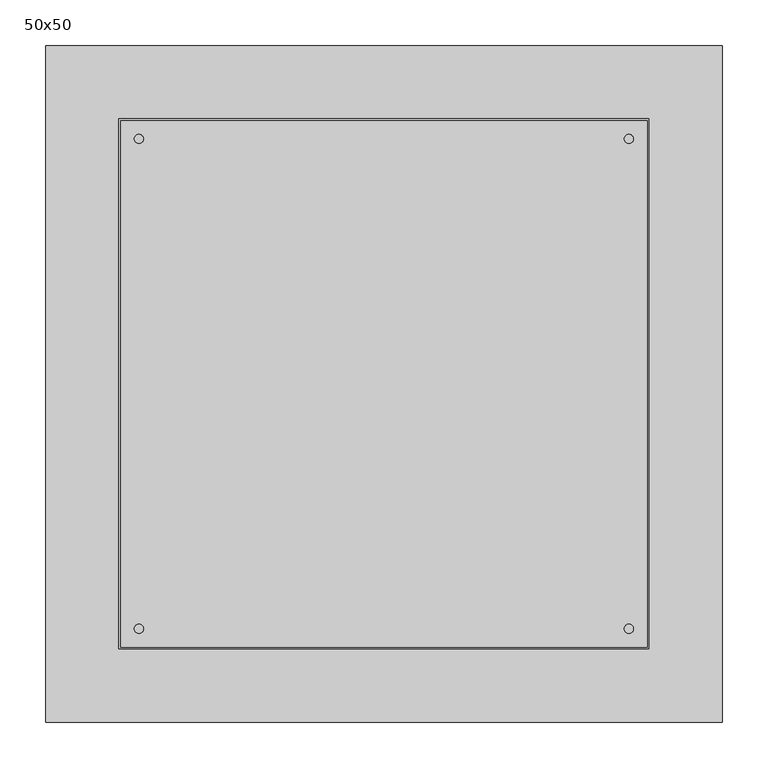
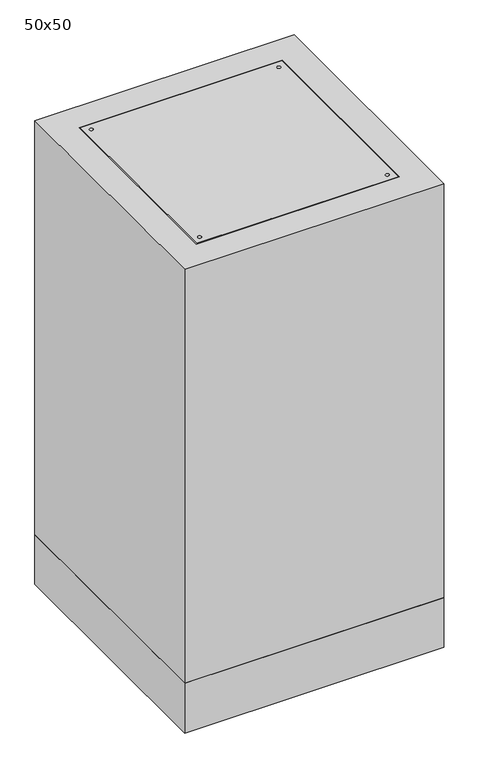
"""IFC4 building model written with IfcOpenShell, lengths in millimetres: proxy geometry, ARC_MDL_ME_Arqueta : 50x50."""

from ifc_helpers import new_model, si_unit, point, frame, frame_2d, origin, place, context, project, spatial, polyline, circle_curve, trimmed, segment, composite_curve, outline, extrude, faceted_brep, source, transform, mapped, element, save


def proxy_50x50_437b038c(model_context):
    return source(origin(), model_context, "Body", "SolidModel", [
        extrude(outline(polyline([(287.1537061, 285.2358215), (287.1537061, -290.7641785), (-288.8462939, -290.7641785), (-288.8462939, 285.2358215), (287.1537061, 285.2358215)]), holes=[composite_curve([segment(trimmed(circle_curve(frame_2d((-268.8462939, 265.2358215)), 5.0), [point((-273.8462939, 265.2358215))], [point((-263.8462939, 265.2358215))], True, "CARTESIAN"), True, "CONTINUOUS"), segment(trimmed(circle_curve(frame_2d((-268.8462939, 265.2358215)), 5.0), [point((-263.8462939, 265.2358215))], [point((-273.8462939, 265.2358215))], True, "CARTESIAN"), True, "CONTINUOUS")], self_intersect=False), composite_curve([segment(trimmed(circle_curve(frame_2d((267.1537061, 265.2358215)), 5.0), [point((262.1537061, 265.2358215))], [point((272.1537061, 265.2358215))], True, "CARTESIAN"), True, "CONTINUOUS"), segment(trimmed(circle_curve(frame_2d((267.1537061, 265.2358215)), 5.0), [point((272.1537061, 265.2358215))], [point((262.1537061, 265.2358215))], True, "CARTESIAN"), True, "CONTINUOUS")], self_intersect=False), composite_curve([segment(trimmed(circle_curve(frame_2d((267.1537061, -270.7641785)), 5.0), [point((262.1537061, -270.7641785))], [point((272.1537061, -270.7641785))], True, "CARTESIAN"), True, "CONTINUOUS"), segment(trimmed(circle_curve(frame_2d((267.1537061, -270.7641785)), 5.0), [point((272.1537061, -270.7641785))], [point((262.1537061, -270.7641785))], True, "CARTESIAN"), True, "CONTINUOUS")], self_intersect=False), composite_curve([segment(trimmed(circle_curve(frame_2d((-268.8462939, -270.7641785)), 5.0), [point((-273.8462939, -270.7641785))], [point((-263.8462939, -270.7641785))], True, "CARTESIAN"), True, "CONTINUOUS"), segment(trimmed(circle_curve(frame_2d((-268.8462939, -270.7641785)), 5.0), [point((-263.8462939, -270.7641785))], [point((-273.8462939, -270.7641785))], True, "CARTESIAN"), True, "CONTINUOUS")], self_intersect=False)]), frame((0.0, 0.0, -15.0), z_axis=(0.0, 0.0, 1.0), x_axis=(1.0, 0.0, 0.0)), (0.0, 0.0, 1.0), 15.0),
        extrude(outline(polyline([(369.1537061, 367.2358215), (369.1537061, -372.7641785), (-370.8462939, -372.7641785), (-370.8462939, 367.2358215), (369.1537061, 367.2358215)])), frame((0.0, 0.0, -1400.0), z_axis=(0.0, 0.0, 1.0), x_axis=(1.0, 0.0, 0.0)), (0.0, 0.0, 1.0), 150.0),
        faceted_brep([(369.1537061, -372.7641785, 0.0), (369.1537061, 367.2358215, 0.0), (-370.8462939, 367.2358215, 0.0), (-370.8462939, -372.7641785, 0.0), (-290.8462939, -292.7641785, 0.0), (-290.8462939, 287.2358215, 0.0), (289.1537061, 287.2358215, 0.0), (289.1537061, -292.7641785, 0.0), (369.1537061, -372.7641785, -1250.0), (369.1537061, 367.2358215, -1250.0), (-370.8462939, 367.2358215, -1250.0), (-370.8462939, -372.7641785, -1250.0), (-290.8462939, -292.7641785, -50.0), (-290.8462939, 287.2358215, -50.0), (289.1537061, 287.2358215, -50.0), (289.1537061, -292.7641785, -50.0), (-250.8462939, -252.7641785, -50.0), (-250.8462939, 247.2358215, -50.0), (249.1537061, 247.2358215, -50.0), (249.1537061, -252.7641785, -50.0), (-250.8462939, -252.7641785, -1250.0), (249.1537061, -252.7641785, -1250.0), (249.1537061, 247.2358215, -1250.0), (-250.8462939, 247.2358215, -1250.0)], [[[0, 1, 2, 3], [4, 5, 6, 7]], [[1, 0, 8, 9]], [[2, 1, 9, 10]], [[3, 2, 10, 11]], [[8, 0, 3, 11]], [[5, 4, 12, 13]], [[6, 5, 13, 14]], [[7, 6, 14, 15]], [[4, 7, 15, 12]], [[13, 12, 15, 14], [16, 17, 18, 19]], [[9, 8, 11, 10], [20, 21, 22, 23]], [[17, 16, 20, 23]], [[18, 17, 23, 22]], [[19, 18, 22, 21]], [[16, 19, 21, 20]]]),
    ])


if __name__ == "__main__":
    model = new_model("IFC4")
    model_context = context("Model", 3, world=origin())
    ifc_project = project(units=[si_unit("LENGTHUNIT", "METRE", prefix="MILLI")], contexts=[model_context])
    site = spatial("IfcSite", under=ifc_project)
    building = spatial("IfcBuilding", under=site)
    placement = place(None, origin())
    proxy_50x50_shape = proxy_50x50_437b038c(model_context)
    element("IfcBuildingElementProxy", 1, Name="ARC_MDL_ME_Arqueta : 50x50", ObjectType="ARC_MDL_ME_Arqueta : 50x50", at=placement, inside=building, context=model_context, shape_type="MappedRepresentation", body=[
        mapped(proxy_50x50_shape, transform((0.0, 0.0, 0.0), x_axis=(1.0, 0.0, 0.0), y_axis=(0.0, 1.0, 0.0), z_axis=(0.0, 0.0, 1.0))),
    ])
    save(model, "model.ifc")
